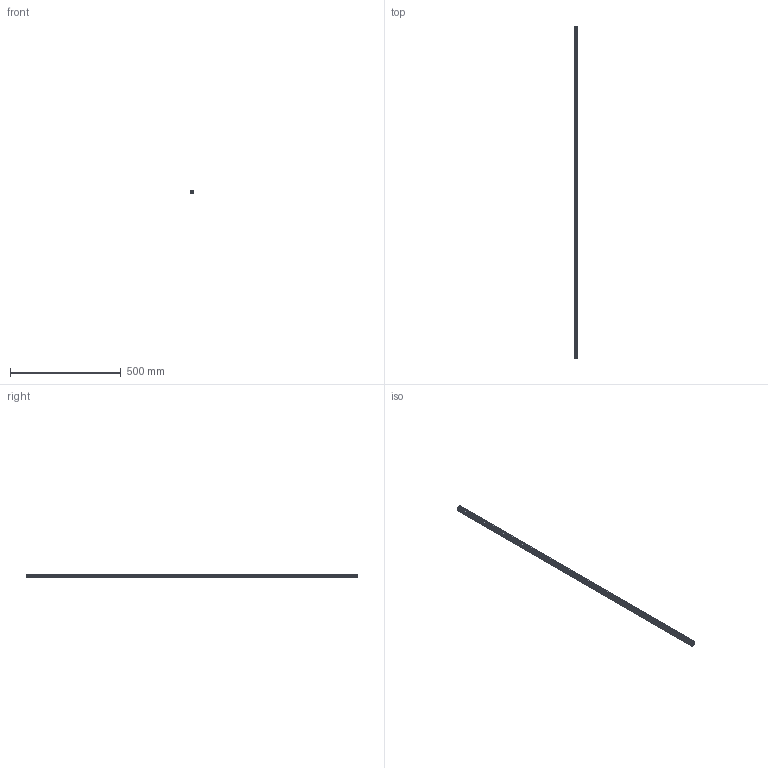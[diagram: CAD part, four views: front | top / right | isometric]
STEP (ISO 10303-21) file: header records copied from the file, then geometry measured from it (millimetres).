
FILE_DESCRIPTION (( 'STEP AP214' ), '1' );
FILE_NAME ('PEP1818-1500.STEP', '2019-10-29T09:34:16', ( '微软用户' ), ( '微软中国' ), 'SwSTEP 2.0', 'SolidWorks 2016', '' );
FILE_SCHEMA (( 'AUTOMOTIVE_DESIGN' ));
Length unit declared in the file: millimetre
Products named in the file (1): PEP1818-1500
Bounding box: 18 x 1500 x 18 mm (x, y, z)
Volume: 231073.2 mm3; surface area: 224844 mm2
Topology: 1 solids, 1 shells, 78 faces, 228 edges, 152 vertices
Faces by surface type: plane 42, cylinder 36
Entity records: 3504 total; most frequent: CARTESIAN_POINT 459, DIRECTION 458, ORIENTED_EDGE 456, EDGE_CURVE 228, VECTOR 156, LINE 156, VERTEX_POINT 152, AXIS2_PLACEMENT_3D 151
